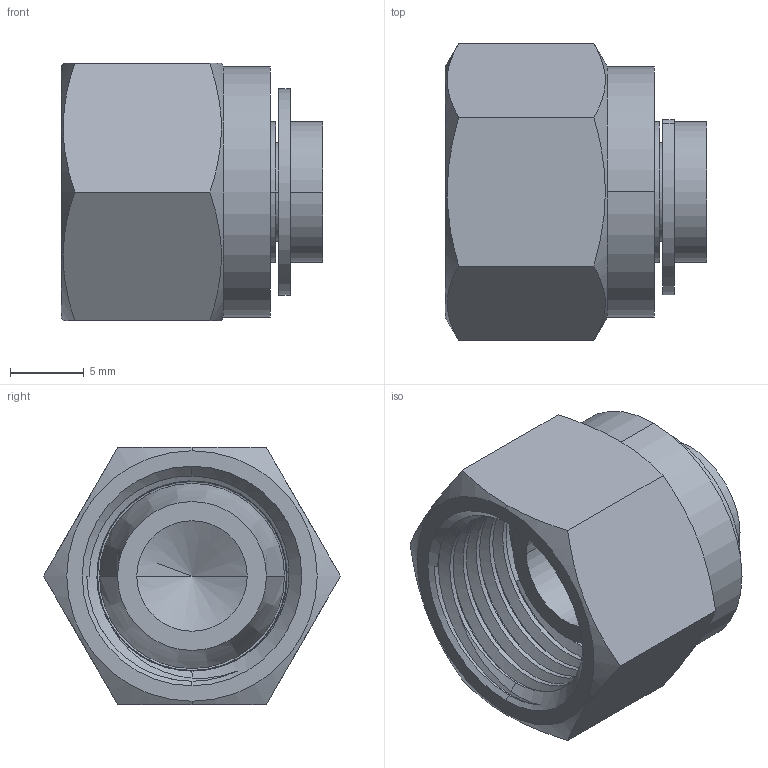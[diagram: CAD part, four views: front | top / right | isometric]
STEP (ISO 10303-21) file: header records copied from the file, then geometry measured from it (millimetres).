
FILE_DESCRIPTION (( 'STEP AP203' ), '1' );
FILE_NAME ('DBA06 SS.STEP', '2009-09-08T04:41:53', ( ' ' ), ( '' ), 'SwSTEP 2.0', 'SolidWorks 2008', '' );
FILE_SCHEMA (( 'CONFIG_CONTROL_DESIGN' ));
Length unit declared in the file: millimetre
Products named in the file (1): DBA06 SS
Bounding box: 17.75 x 20.16 x 17.46 mm (x, y, z)
Volume: 2638.2 mm3; surface area: 2597.6 mm2
Topology: 2 solids, 2 shells, 80 faces, 204 edges, 132 vertices
Faces by surface type: cylinder 41, plane 23, cone 13, bspline 3
Entity records: 3345 total; most frequent: CARTESIAN_POINT 1418, ORIENTED_EDGE 404, DIRECTION 374, EDGE_CURVE 202, AXIS2_PLACEMENT_3D 146, VERTEX_POINT 132, EDGE_LOOP 86, VECTOR 82
